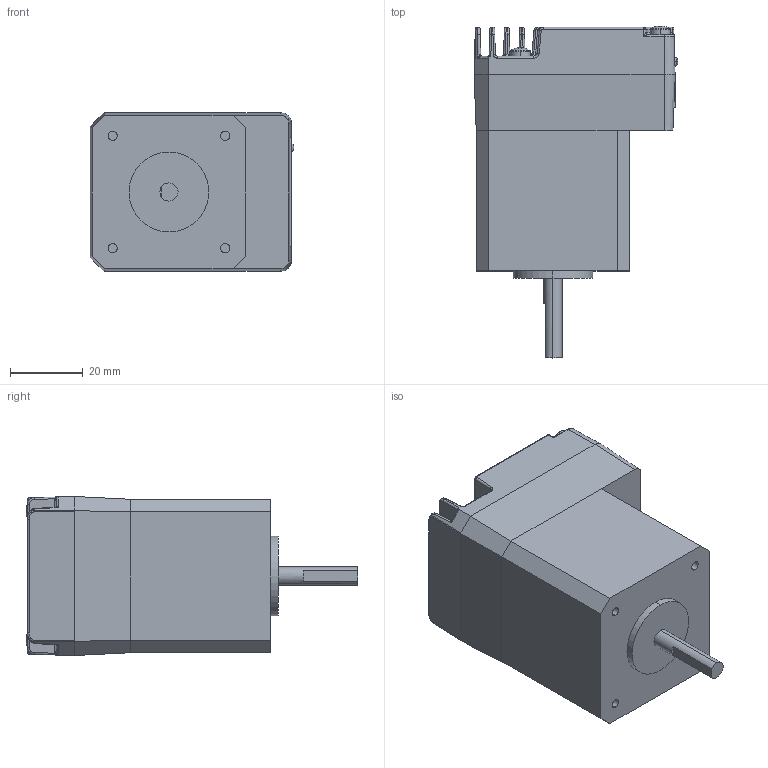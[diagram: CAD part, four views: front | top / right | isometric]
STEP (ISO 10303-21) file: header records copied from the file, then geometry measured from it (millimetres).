
FILE_DESCRIPTION((''),'2;1');
FILE_NAME('CU_ISM-7400','2013-09-26T',('jbuhisan'),(''),'PRO/ENGINEER BY PARAMETRIC TECHNOLOGY CORPORATION, 2011490','PRO/ENGINEER BY PARAMETRIC TECHNOLOGY CORPORATION, 2011490','');
FILE_SCHEMA(('CONFIG_CONTROL_DESIGN'));
Products named in the file (1): CU_ISM-7400
Bounding box: 56.19 x 91.45 x 43.82 mm (x, y, z)
Volume: 97311.5 mm3; surface area: 38329.4 mm2
Topology: 1 solids, 1 shells, 1869 faces, 5046 edges, 3176 vertices
Faces by surface type: plane 1324, cylinder 341, bspline 102, cone 62, torus 25, sphere 15
Entity records: 74653 total; most frequent: CARTESIAN_POINT 28221, ORIENTED_EDGE 10014, DIRECTION 9012, EDGE_CURVE 5007, VECTOR 3842, LINE 3842, VERTEX_POINT 3176, AXIS2_PLACEMENT_3D 2585
